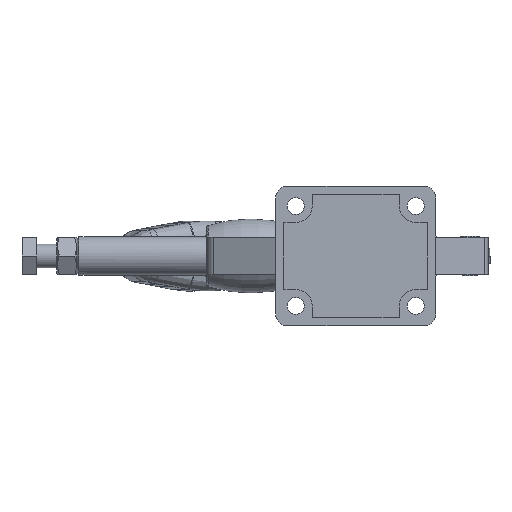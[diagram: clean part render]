
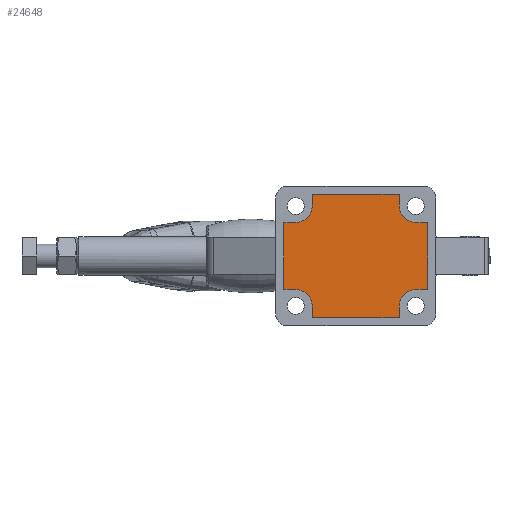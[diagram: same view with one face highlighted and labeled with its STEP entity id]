
A CAD part, front view. The second image highlights one B-rep face of the part: STEP entity #24648.
In plain terms, the highlighted planar face has unit normal (0, -1, 0).
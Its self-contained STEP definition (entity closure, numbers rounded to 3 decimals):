
#139 = ORIENTED_EDGE ( 'NONE', *, *, #26137, .T. ) ;
#494 = VERTEX_POINT ( 'NONE', #11730 ) ;
#698 = VECTOR ( 'NONE', #36819, 1000. ) ;
#1072 = DIRECTION ( 'NONE',  ( 0., 0., -1. ) ) ;
#1094 = ORIENTED_EDGE ( 'NONE', *, *, #24924, .T. ) ;
#1312 = CARTESIAN_POINT ( 'NONE',  ( 30., 2., 25. ) ) ;
#1519 = VECTOR ( 'NONE', #24194, 1000. ) ;
#1717 = VERTEX_POINT ( 'NONE', #15967 ) ;
#1742 = VERTEX_POINT ( 'NONE', #23412 ) ;
#2039 = EDGE_CURVE ( 'NONE', #4408, #14803, #14923, .T. ) ;
#2250 = AXIS2_PLACEMENT_3D ( 'NONE', #29968, #10592, #33209 ) ;
#2296 = VERTEX_POINT ( 'NONE', #25352 ) ;
#3268 = LINE ( 'NONE', #13946, #9821 ) ;
#4136 = VERTEX_POINT ( 'NONE', #14652 ) ;
#4408 = VERTEX_POINT ( 'NONE', #11611 ) ;
#5377 = LINE ( 'NONE', #23515, #30195 ) ;
#6075 = CARTESIAN_POINT ( 'NONE',  ( 30., 2., -16.75 ) ) ;
#7385 = LINE ( 'NONE', #37560, #32186 ) ;
#7518 = DIRECTION ( 'NONE',  ( 0., 0., 1. ) ) ;
#7574 = VERTEX_POINT ( 'NONE', #26502 ) ;
#8058 = CARTESIAN_POINT ( 'NONE',  ( 21.75, 2., 25. ) ) ;
#8118 = CARTESIAN_POINT ( 'NONE',  ( 30., 2., 16.75 ) ) ;
#8134 = CARTESIAN_POINT ( 'NONE',  ( -21.75, 2., 31. ) ) ;
#8159 = VECTOR ( 'NONE', #36881, 1000. ) ;
#9168 = LINE ( 'NONE', #14275, #8159 ) ;
#9290 = CARTESIAN_POINT ( 'NONE',  ( 30., 2., -25. ) ) ;
#9453 = CARTESIAN_POINT ( 'NONE',  ( -21.75, 2., 25. ) ) ;
#9821 = VECTOR ( 'NONE', #23711, 1000. ) ;
#10462 = EDGE_CURVE ( 'NONE', #11314, #494, #35871, .T. ) ;
#10592 = DIRECTION ( 'NONE',  ( 0., 1., 0. ) ) ;
#10613 = ORIENTED_EDGE ( 'NONE', *, *, #10462, .T. ) ;
#11022 = DIRECTION ( 'NONE',  ( 0., 1., 0. ) ) ;
#11100 = VERTEX_POINT ( 'NONE', #11788 ) ;
#11154 = DIRECTION ( 'NONE',  ( 0., -1., 0. ) ) ;
#11314 = VERTEX_POINT ( 'NONE', #19272 ) ;
#11482 = DIRECTION ( 'NONE',  ( 0., 0., 1. ) ) ;
#11611 = CARTESIAN_POINT ( 'NONE',  ( 21.75, 2., -31. ) ) ;
#11730 = CARTESIAN_POINT ( 'NONE',  ( 21.75, 2., 31. ) ) ;
#11788 = CARTESIAN_POINT ( 'NONE',  ( -30., 2., 16.75 ) ) ;
#11993 = ORIENTED_EDGE ( 'NONE', *, *, #16640, .T. ) ;
#12539 = DIRECTION ( 'NONE',  ( 0., 0., -1. ) ) ;
#12849 = ORIENTED_EDGE ( 'NONE', *, *, #2039, .T. ) ;
#13331 = EDGE_CURVE ( 'NONE', #18974, #17907, #22088, .T. ) ;
#13484 = VECTOR ( 'NONE', #27506, 1000. ) ;
#13529 = CARTESIAN_POINT ( 'NONE',  ( 21.75, 2., -25. ) ) ;
#13547 = DIRECTION ( 'NONE',  ( 1., 0., 0. ) ) ;
#13693 = EDGE_CURVE ( 'NONE', #1742, #18974, #5377, .T. ) ;
#13946 = CARTESIAN_POINT ( 'NONE',  ( -36., 2., -16.75 ) ) ;
#14054 = CARTESIAN_POINT ( 'NONE',  ( -30., 2., 16.75 ) ) ;
#14275 = CARTESIAN_POINT ( 'NONE',  ( -21.75, 2., 25. ) ) ;
#14461 = VERTEX_POINT ( 'NONE', #25677 ) ;
#14652 = CARTESIAN_POINT ( 'NONE',  ( -21.75, 2., -31. ) ) ;
#14803 = VERTEX_POINT ( 'NONE', #13529 ) ;
#14923 = LINE ( 'NONE', #33394, #40711 ) ;
#15407 = AXIS2_PLACEMENT_3D ( 'NONE', #30411, #11022, #33654 ) ;
#15967 = CARTESIAN_POINT ( 'NONE',  ( -36., 2., 16.75 ) ) ;
#16081 = CARTESIAN_POINT ( 'NONE',  ( 30., 2., 16.75 ) ) ;
#16115 = VERTEX_POINT ( 'NONE', #9453 ) ;
#16273 = CARTESIAN_POINT ( 'NONE',  ( -30., 2., -25. ) ) ;
#16640 = EDGE_CURVE ( 'NONE', #11100, #1717, #35073, .T. ) ;
#16844 = CIRCLE ( 'NONE', #15407, 8.25 ) ;
#17668 = ORIENTED_EDGE ( 'NONE', *, *, #25053, .T. ) ;
#17851 = EDGE_CURVE ( 'NONE', #14803, #40550, #37545, .T. ) ;
#17907 = VERTEX_POINT ( 'NONE', #16081 ) ;
#18974 = VERTEX_POINT ( 'NONE', #20089 ) ;
#19272 = CARTESIAN_POINT ( 'NONE',  ( 21.75, 2., 25. ) ) ;
#19493 = EDGE_CURVE ( 'NONE', #17907, #11314, #23736, .T. ) ;
#19541 = DIRECTION ( 'NONE',  ( 0., 0., -1. ) ) ;
#20089 = CARTESIAN_POINT ( 'NONE',  ( 36., 2., 16.75 ) ) ;
#20619 = ORIENTED_EDGE ( 'NONE', *, *, #26296, .T. ) ;
#21114 = ORIENTED_EDGE ( 'NONE', *, *, #29427, .T. ) ;
#21590 = ORIENTED_EDGE ( 'NONE', *, *, #35698, .T. ) ;
#21824 = ORIENTED_EDGE ( 'NONE', *, *, #13331, .T. ) ;
#22088 = LINE ( 'NONE', #8118, #13484 ) ;
#22389 = EDGE_CURVE ( 'NONE', #7574, #2296, #38782, .T. ) ;
#23412 = CARTESIAN_POINT ( 'NONE',  ( 36., 2., -16.75 ) ) ;
#23515 = CARTESIAN_POINT ( 'NONE',  ( 36., 2., 16.75 ) ) ;
#23675 = ORIENTED_EDGE ( 'NONE', *, *, #13693, .T. ) ;
#23711 = DIRECTION ( 'NONE',  ( 0., 0., -1. ) ) ;
#23736 = CIRCLE ( 'NONE', #2250, 8.25 ) ;
#23989 = LINE ( 'NONE', #8134, #27027 ) ;
#24188 = AXIS2_PLACEMENT_3D ( 'NONE', #16273, #38889, #19541 ) ;
#24194 = DIRECTION ( 'NONE',  ( 0., 0., 1. ) ) ;
#24511 = FACE_OUTER_BOUND ( 'NONE', #31420, .T. ) ;
#24648 = ADVANCED_FACE ( 'NONE', ( #24511 ), #30562, .T. ) ;
#24858 = ORIENTED_EDGE ( 'NONE', *, *, #19493, .T. ) ;
#24924 = EDGE_CURVE ( 'NONE', #1717, #7574, #3268, .T. ) ;
#25053 = EDGE_CURVE ( 'NONE', #494, #33565, #23989, .T. ) ;
#25113 = ORIENTED_EDGE ( 'NONE', *, *, #22389, .T. ) ;
#25352 = CARTESIAN_POINT ( 'NONE',  ( -30., 2., -16.75 ) ) ;
#25677 = CARTESIAN_POINT ( 'NONE',  ( -21.75, 2., -25. ) ) ;
#25785 = EDGE_CURVE ( 'NONE', #14461, #4136, #34572, .T. ) ;
#26137 = EDGE_CURVE ( 'NONE', #40550, #1742, #28487, .T. ) ;
#26296 = EDGE_CURVE ( 'NONE', #16115, #11100, #16844, .T. ) ;
#26502 = CARTESIAN_POINT ( 'NONE',  ( -36., 2., -16.75 ) ) ;
#26988 = VECTOR ( 'NONE', #1072, 1000. ) ;
#27027 = VECTOR ( 'NONE', #30798, 1000. ) ;
#27506 = DIRECTION ( 'NONE',  ( -1., 0., 0. ) ) ;
#28160 = VECTOR ( 'NONE', #13547, 1000. ) ;
#28193 = ORIENTED_EDGE ( 'NONE', *, *, #32668, .T. ) ;
#28487 = LINE ( 'NONE', #6075, #36067 ) ;
#28553 = ORIENTED_EDGE ( 'NONE', *, *, #25785, .T. ) ;
#28720 = DIRECTION ( 'NONE',  ( 1., 0., 0. ) ) ;
#29404 = ORIENTED_EDGE ( 'NONE', *, *, #17851, .T. ) ;
#29427 = EDGE_CURVE ( 'NONE', #33565, #16115, #9168, .T. ) ;
#29968 = CARTESIAN_POINT ( 'NONE',  ( 30., 2., 25. ) ) ;
#30195 = VECTOR ( 'NONE', #7518, 1000. ) ;
#30411 = CARTESIAN_POINT ( 'NONE',  ( -30., 2., 25. ) ) ;
#30562 = PLANE ( 'NONE',  #36467 ) ;
#30798 = DIRECTION ( 'NONE',  ( -1., 0., 0. ) ) ;
#31420 = EDGE_LOOP ( 'NONE', ( #17668, #21114, #20619, #11993, #1094, #25113, #28193, #28553, #21590, #12849, #29404, #139, #23675, #21824, #24858, #10613 ) ) ;
#31884 = CARTESIAN_POINT ( 'NONE',  ( -21.75, 2., 31. ) ) ;
#31923 = DIRECTION ( 'NONE',  ( 0., 1., 0. ) ) ;
#32186 = VECTOR ( 'NONE', #40246, 1000. ) ;
#32668 = EDGE_CURVE ( 'NONE', #2296, #14461, #40412, .T. ) ;
#33209 = DIRECTION ( 'NONE',  ( 0., 0., -1. ) ) ;
#33394 = CARTESIAN_POINT ( 'NONE',  ( 21.75, 2., -25. ) ) ;
#33565 = VERTEX_POINT ( 'NONE', #31884 ) ;
#33654 = DIRECTION ( 'NONE',  ( 0., 0., -1. ) ) ;
#33798 = DIRECTION ( 'NONE',  ( 0., 0., -1. ) ) ;
#34435 = AXIS2_PLACEMENT_3D ( 'NONE', #9290, #31923, #12539 ) ;
#34572 = LINE ( 'NONE', #39755, #26988 ) ;
#34742 = CARTESIAN_POINT ( 'NONE',  ( 30., 2., -16.75 ) ) ;
#35073 = LINE ( 'NONE', #14054, #698 ) ;
#35698 = EDGE_CURVE ( 'NONE', #4136, #4408, #7385, .T. ) ;
#35871 = LINE ( 'NONE', #8058, #1519 ) ;
#36067 = VECTOR ( 'NONE', #28720, 1000. ) ;
#36467 = AXIS2_PLACEMENT_3D ( 'NONE', #1312, #11154, #33798 ) ;
#36819 = DIRECTION ( 'NONE',  ( -1., 0., 0. ) ) ;
#36881 = DIRECTION ( 'NONE',  ( 0., 0., -1. ) ) ;
#37545 = CIRCLE ( 'NONE', #34435, 8.25 ) ;
#37560 = CARTESIAN_POINT ( 'NONE',  ( 21.75, 2., -31. ) ) ;
#38782 = LINE ( 'NONE', #39403, #28160 ) ;
#38889 = DIRECTION ( 'NONE',  ( 0., 1., 0. ) ) ;
#39403 = CARTESIAN_POINT ( 'NONE',  ( -30., 2., -16.75 ) ) ;
#39755 = CARTESIAN_POINT ( 'NONE',  ( -21.75, 2., -25. ) ) ;
#40246 = DIRECTION ( 'NONE',  ( 1., 0., 0. ) ) ;
#40412 = CIRCLE ( 'NONE', #24188, 8.25 ) ;
#40550 = VERTEX_POINT ( 'NONE', #34742 ) ;
#40711 = VECTOR ( 'NONE', #11482, 1000. ) ;
